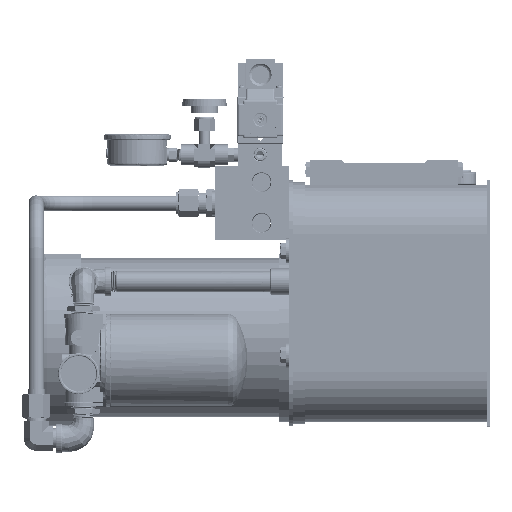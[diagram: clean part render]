
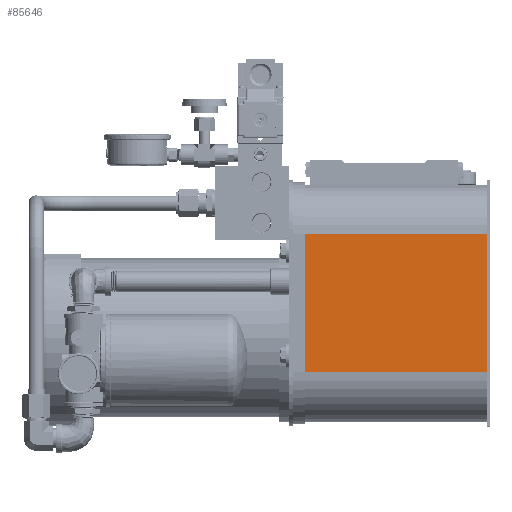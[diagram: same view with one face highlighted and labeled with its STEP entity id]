
A CAD part, top view. The second image highlights one B-rep face of the part: STEP entity #85646.
In plain terms, the highlighted planar face has unit normal (0, 0, 1).
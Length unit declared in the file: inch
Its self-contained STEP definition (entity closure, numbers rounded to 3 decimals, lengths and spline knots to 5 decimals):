
#2270 = AXIS2_PLACEMENT_3D ( 'NONE', #5481, #173277, #109955 ) ;
#5481 = CARTESIAN_POINT ( 'NONE',  ( -0.19624, 5.5236, 18.29139 ) ) ;
#10527 = VERTEX_POINT ( 'NONE', #162668 ) ;
#15612 = PLANE ( 'NONE',  #2270 ) ;
#21602 = VERTEX_POINT ( 'NONE', #51153 ) ;
#31609 = LINE ( 'NONE', #60631, #114107 ) ;
#32651 = EDGE_CURVE ( 'NONE', #107886, #173930, #83325, .T. ) ;
#38847 = LINE ( 'NONE', #130401, #192361 ) ;
#49382 = ORIENTED_EDGE ( 'NONE', *, *, #162373, .F. ) ;
#51153 = CARTESIAN_POINT ( 'NONE',  ( 7.68416, 11.1486, 18.29139 ) ) ;
#56180 = LINE ( 'NONE', #85368, #185528 ) ;
#60631 = CARTESIAN_POINT ( 'NONE',  ( 7.68416, 13.3361, 18.29139 ) ) ;
#61833 = VECTOR ( 'NONE', #146755, 39.37008 ) ;
#78721 = CARTESIAN_POINT ( 'NONE',  ( -0.07124, 11.1486, 18.29139 ) ) ;
#83325 = LINE ( 'NONE', #113497, #61833 ) ;
#85368 = CARTESIAN_POINT ( 'NONE',  ( -0.19624, 11.1486, 18.29139 ) ) ;
#85646 = ADVANCED_FACE ( 'NONE', ( #196572 ), #15612, .T. ) ;
#107886 = VERTEX_POINT ( 'NONE', #192846 ) ;
#108846 = EDGE_CURVE ( 'NONE', #107886, #10527, #38847, .T. ) ;
#109955 = DIRECTION ( 'NONE',  ( 0., 1., 0. ) ) ;
#113497 = CARTESIAN_POINT ( 'NONE',  ( -0.07124, 5.5236, 18.29139 ) ) ;
#114107 = VECTOR ( 'NONE', #184363, 39.37008 ) ;
#117529 = DIRECTION ( 'NONE',  ( 1., 0., 0. ) ) ;
#119216 = DIRECTION ( 'NONE',  ( 1., 0., 0. ) ) ;
#125841 = ORIENTED_EDGE ( 'NONE', *, *, #108846, .T. ) ;
#130401 = CARTESIAN_POINT ( 'NONE',  ( -0.19624, 5.5236, 18.29139 ) ) ;
#140922 = EDGE_CURVE ( 'NONE', #10527, #21602, #31609, .T. ) ;
#146755 = DIRECTION ( 'NONE',  ( 0., 1., 0. ) ) ;
#162373 = EDGE_CURVE ( 'NONE', #173930, #21602, #56180, .T. ) ;
#162668 = CARTESIAN_POINT ( 'NONE',  ( 7.68416, 5.5236, 18.29139 ) ) ;
#172116 = ORIENTED_EDGE ( 'NONE', *, *, #32651, .F. ) ;
#173277 = DIRECTION ( 'NONE',  ( 0., 0., 1. ) ) ;
#173930 = VERTEX_POINT ( 'NONE', #78721 ) ;
#184363 = DIRECTION ( 'NONE',  ( 0., 1., 0. ) ) ;
#185528 = VECTOR ( 'NONE', #117529, 39.37008 ) ;
#191798 = ORIENTED_EDGE ( 'NONE', *, *, #140922, .T. ) ;
#192361 = VECTOR ( 'NONE', #119216, 39.37008 ) ;
#192846 = CARTESIAN_POINT ( 'NONE',  ( -0.07124, 5.5236, 18.29139 ) ) ;
#196572 = FACE_OUTER_BOUND ( 'NONE', #198561, .T. ) ;
#198561 = EDGE_LOOP ( 'NONE', ( #49382, #172116, #125841, #191798 ) ) ;
